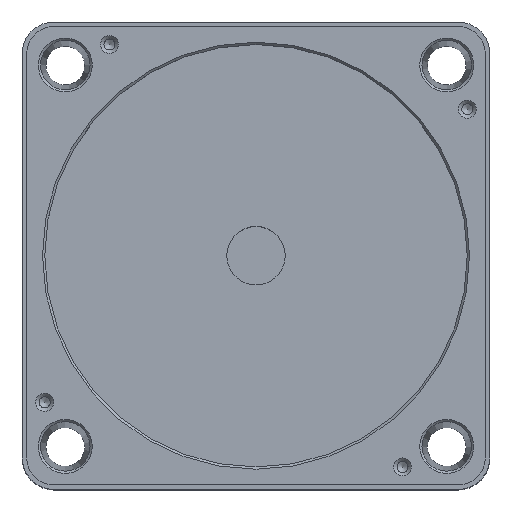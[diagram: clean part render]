
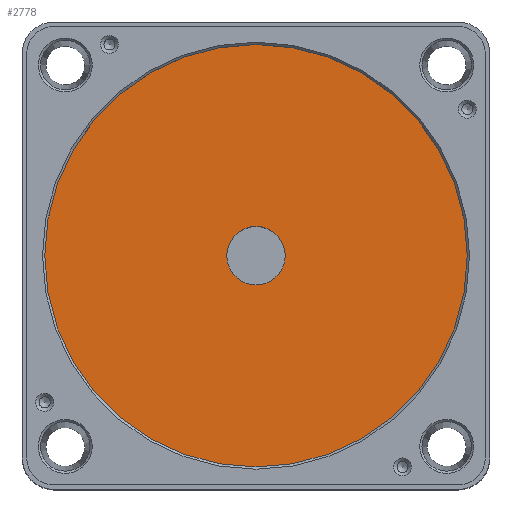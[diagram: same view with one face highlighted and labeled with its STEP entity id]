
A CAD part, top view. The second image highlights one B-rep face of the part: STEP entity #2778.
In plain terms, the highlighted planar face has unit normal (0, 0, 1).
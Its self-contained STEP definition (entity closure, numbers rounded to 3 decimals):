
#65=FACE_BOUND('',#874,.T.);
#710=FACE_OUTER_BOUND('',#873,.T.);
#873=EDGE_LOOP('',(#1931));
#874=EDGE_LOOP('',(#1932));
#1062=CIRCLE('',#2965,6.5);
#1063=CIRCLE('',#2967,47.);
#1267=VERTEX_POINT('',#4266);
#1268=VERTEX_POINT('',#4270);
#1527=EDGE_CURVE('',#1267,#1267,#1062,.T.);
#1529=EDGE_CURVE('',#1268,#1268,#1063,.T.);
#1931=ORIENTED_EDGE('',*,*,#1529,.F.);
#1932=ORIENTED_EDGE('',*,*,#1527,.T.);
#2727=PLANE('',#2966);
#2778=ADVANCED_FACE('',(#710,#65),#2727,.F.);
#2965=AXIS2_PLACEMENT_3D('',#4267,#3340,#3341);
#2966=AXIS2_PLACEMENT_3D('',#4269,#3343,#3344);
#2967=AXIS2_PLACEMENT_3D('',#4271,#3345,#3346);
#3340=DIRECTION('center_axis',(0.,0.,-1.));
#3341=DIRECTION('ref_axis',(-1.,0.,0.));
#3343=DIRECTION('center_axis',(0.,0.,-1.));
#3344=DIRECTION('ref_axis',(-1.,0.,0.));
#3345=DIRECTION('center_axis',(0.,0.,-1.));
#3346=DIRECTION('ref_axis',(0.,-1.,0.));
#4266=CARTESIAN_POINT('',(6.5,0.,67.));
#4267=CARTESIAN_POINT('Origin',(0.,0.,67.));
#4269=CARTESIAN_POINT('Origin',(0.,0.,67.));
#4270=CARTESIAN_POINT('',(0.,47.,67.));
#4271=CARTESIAN_POINT('Origin',(0.,0.,67.));
